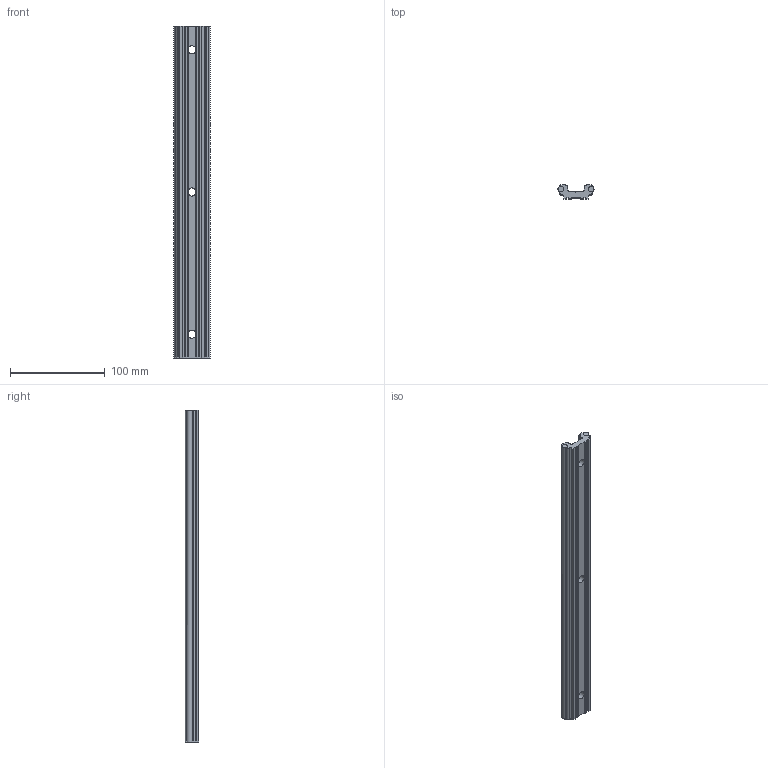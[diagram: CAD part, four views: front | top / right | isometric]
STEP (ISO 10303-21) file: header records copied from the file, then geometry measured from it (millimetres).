
FILE_DESCRIPTION((''),'2;1');
FILE_NAME('C:\Andys Backup Data\WEBSITE\DREAMWEAVER\MiniTec\Products\Linear System LR\CAD\Step\28.0525 RAIL LR6 S.stp','2016-06-02T12:03:43',('amoles'),(''),'Autodesk Inventor 2012','Autodesk Inventor 2012','');
FILE_SCHEMA(('AUTOMOTIVE_DESIGN { 1 0 10303 214 1 1 1 1 }'));
Length unit declared in the file: inch
Products named in the file (1): 28.0525 RAIL LR6 S 3 HOLE
Bounding box: 37.99 x 14.4 x 350 mm (x, y, z)
Volume: 114153.4 mm3; surface area: 40987.7 mm2
Topology: 1 solids, 1 shells, 95 faces, 294 edges, 195 vertices
Faces by surface type: plane 48, cylinder 47
Full cylindrical faces by diameter (mm): 6 x2, 8.5 x3
Entity records: 3317 total; most frequent: CARTESIAN_POINT 600, DIRECTION 584, ORIENTED_EDGE 568, EDGE_CURVE 284, AXIS2_PLACEMENT_3D 210, VERTEX_POINT 190, VECTOR 164, LINE 164
